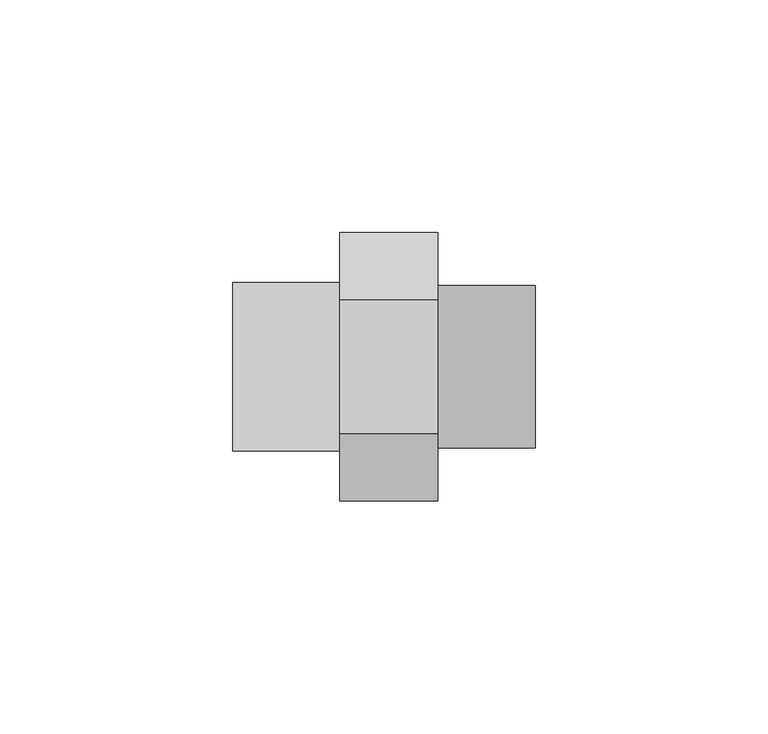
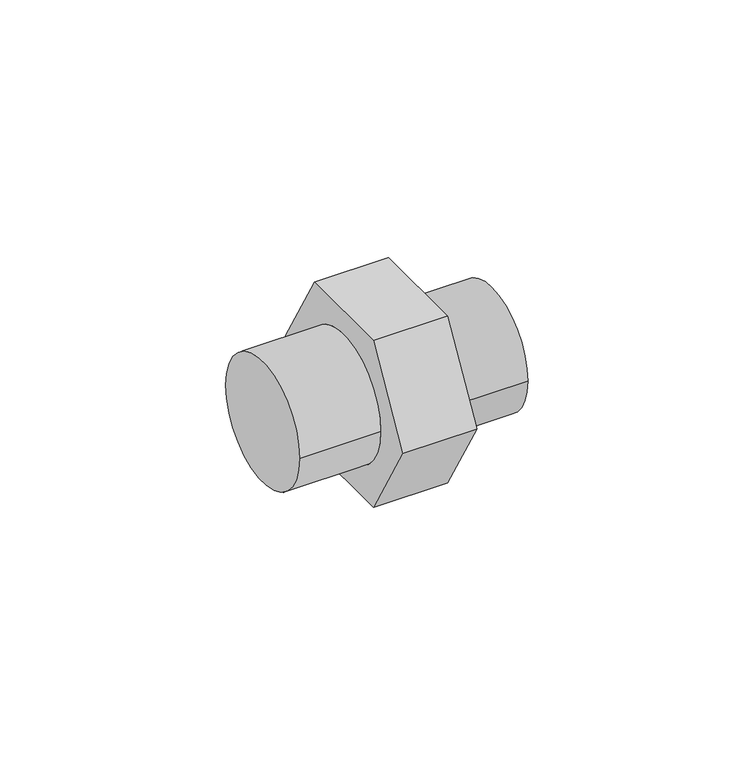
"""IFC4 building model written with IfcOpenShell, lengths in millimetres: pipe fitting geometry, 01011197 : Machones doble rosca reducidas."""

import ifcopenshell
import ifcopenshell.guid

model = None  # the IFC model being written
_history = None  # IfcOwnerHistory: only IFC2X3 demands one
_inside = {}  # id of a spatial element -> (the spatial element, [elements in it])
_under = {}  # id of a project, library or spatial element -> (it, [spatial elements below it])
_declared = {}  # id of a project -> (the project, [libraries it declares])
_typed = {}  # id of a type object -> (the type object, [elements of that type])
_made_of = {}  # id of a material, layer set ... -> (it, [elements and type objects made of it])


def new_model(schema):
    """Start an empty IFC model of exactly this schema.

    Asked for "IFC4X3", IfcOpenShell would pick the latest addendum, in which some entities
    have other attributes; the version numbers below select the first issue.
    IFC2X3 requires an IfcOwnerHistory on every rooted entity: one is made here for all.
    """
    global model, _history
    if schema == "IFC4X3":
        model = ifcopenshell.file(schema_version=(4, 3, 0, 0))
    else:
        model = ifcopenshell.file(schema=schema)
    _inside.clear()
    _under.clear()
    _declared.clear()
    _typed.clear()
    _made_of.clear()
    _history = None
    if model.schema == "IFC2X3":
        org = make("IfcOrganization", Name="unknown")
        user = make(
            "IfcPersonAndOrganization",
            ThePerson=make("IfcPerson", FamilyName="unknown"),
            TheOrganization=org,
        )
        app = make(
            "IfcApplication",
            ApplicationDeveloper=org,
            Version="unknown",
            ApplicationFullName="unknown",
            ApplicationIdentifier="unknown",
        )
        _history = make(
            "IfcOwnerHistory",
            OwningUser=user,
            OwningApplication=app,
            ChangeAction="ADDED",
            CreationDate=0,
        )
    return model


def make(cls, **values):
    """One entity of the class cls with the attributes given. An attribute that is None is left unset."""
    return model.create_entity(
        cls, **{name: value for name, value in values.items() if value is not None}
    )


def rooted(cls, **values):
    """An entity with a GlobalId (a new one), such as an element, a storey or a relation."""
    return make(cls, GlobalId=ifcopenshell.guid.new(), OwnerHistory=_history, **values)


def si_unit(unit_type, name, prefix=None):
    """IfcSIUnit, for example si_unit("LENGTHUNIT", "METRE", prefix="MILLI")."""
    return make("IfcSIUnit", UnitType=unit_type, Prefix=prefix, Name=name)


def assignment(units):
    """IfcUnitAssignment: the units of a project."""
    return None if units is None else make("IfcUnitAssignment", Units=units)


def point(xyz):
    """IfcCartesianPoint."""
    return None if xyz is None else make("IfcCartesianPoint", Coordinates=xyz)


def direction(xyz):
    """IfcDirection."""
    return None if xyz is None else make("IfcDirection", DirectionRatios=xyz)


def frame(location, z_axis=None, x_axis=None):
    """IfcAxis2Placement3D, a coordinate frame: its origin and axes. An axis left out is left unset."""
    return make(
        "IfcAxis2Placement3D",
        Location=point(location),
        Axis=direction(z_axis),
        RefDirection=direction(x_axis),
    )


def origin():
    """The frame at (0, 0, 0) with its axes left unset."""
    return frame((0.0, 0.0, 0.0))


def place(relative_to, where):
    """IfcLocalPlacement: puts the frame where relative to a parent placement (None: the world)."""
    return make(
        "IfcLocalPlacement", PlacementRelTo=relative_to, RelativePlacement=where
    )


def context(
    kind, dimensions, precision=None, world=None, true_north=None, identifier=None
):
    """IfcGeometricRepresentationContext, for example the 3D "Model" context."""
    return make(
        "IfcGeometricRepresentationContext",
        ContextIdentifier=identifier,
        ContextType=kind,
        CoordinateSpaceDimension=dimensions,
        Precision=precision,
        WorldCoordinateSystem=world,
        TrueNorth=true_north,
    )


def project(units=None, contexts=None):
    """IfcProject with its units and contexts."""
    return rooted(
        "IfcProject",
        Name="project",
        RepresentationContexts=contexts,
        UnitsInContext=assignment(units),
    )


def spatial(cls, under=None, at=None, **own):
    """A site, building, storey or space (cls), placed at a placement, below another one or the project."""
    s = rooted(cls, ObjectPlacement=at, **own)
    if under is not None:
        _under.setdefault(under.id(), (under, []))[1].append(s)
    return s


def circle_curve(where, radius):
    """IfcCircle in the frame where."""
    return make("IfcCircle", Position=where, Radius=radius)


def shape(context_of_items, identifier, shape_type, items):
    """IfcShapeRepresentation: the items that make up one representation, for example the "Body"."""
    return make(
        "IfcShapeRepresentation",
        ContextOfItems=context_of_items,
        RepresentationIdentifier=identifier,
        RepresentationType=shape_type,
        Items=items,
    )


def source(mapping_origin, context_of_items, identifier, shape_type, items):
    """IfcRepresentationMap: a shape defined once, which mapped items show again and again."""
    return make(
        "IfcRepresentationMap",
        MappingOrigin=mapping_origin,
        MappedRepresentation=shape(context_of_items, identifier, shape_type, items),
    )


def transform(
    local_origin,
    x_axis=None,
    y_axis=None,
    z_axis=None,
    scale=None,
    scale2=None,
    scale3=None,
    uniform=True,
):
    """IfcCartesianTransformationOperator3D, or its non-uniform kind. x_axis, y_axis, z_axis: its Axis1, 2, 3."""
    if uniform:
        return make(
            "IfcCartesianTransformationOperator3D",
            Axis1=direction(x_axis),
            Axis2=direction(y_axis),
            LocalOrigin=point(local_origin),
            Scale=scale,
            Axis3=direction(z_axis),
        )
    return make(
        "IfcCartesianTransformationOperator3DnonUniform",
        Axis1=direction(x_axis),
        Axis2=direction(y_axis),
        LocalOrigin=point(local_origin),
        Scale=scale,
        Axis3=direction(z_axis),
        Scale2=scale2,
        Scale3=scale3,
    )


def mapped(mapping_source, mapping_target):
    """IfcMappedItem: shows the shape of a source again, moved by a transform."""
    return make(
        "IfcMappedItem", MappingSource=mapping_source, MappingTarget=mapping_target
    )


def made_of(thing, what):
    """Note that an element or type object is made of a material, layer set ...; save() writes the relation."""
    if what is not None:
        _made_of.setdefault(what.id(), (what, []))[1].append(thing)
    return thing


def element(
    cls,
    number,
    at=None,
    inside=None,
    cuts=None,
    type_object=None,
    material=None,
    context=None,
    identifier="Body",
    shape_type=None,
    held_by="IfcProductDefinitionShape",
    body=None,
    shapes=None,
    **own,
):
    """One element of the class cls, such as IfcWall. Its Tag is "e" and its number.

    at: its placement. inside: the storey or other place that contains it. cuts: it is an
    opening in that element (IfcRelVoidsElement). A single representation is given by context,
    identifier, shape_type and body (its items); several are given by shapes. held_by: the class
    of the entity that holds the representations. save() writes the other relations.
    """
    e = rooted(cls, Tag="e%d" % number, ObjectPlacement=at, **own)
    if body is not None:
        shapes = [shape(context, identifier, shape_type, body)]
    if shapes is not None:
        e.Representation = make(held_by, Representations=shapes)
    if inside is not None:
        _inside.setdefault(inside.id(), (inside, []))[1].append(e)
    if cuts is not None:
        rooted(
            "IfcRelVoidsElement", RelatingBuildingElement=cuts, RelatedOpeningElement=e
        )
    if type_object is not None:
        _typed.setdefault(type_object.id(), (type_object, []))[1].append(e)
    return made_of(e, material)


def aggregate(whole, parts):
    """IfcRelAggregates: a whole, such as a stair, and the parts it consists of."""
    return rooted("IfcRelAggregates", RelatingObject=whole, RelatedObjects=parts)


def save(model, path):
    """Write the relations noted so far, then the file.

    IfcRelAggregates (storeys below a building ...), IfcRelContainedInSpatialStructure (elements
    in a storey), IfcRelDefinesByType, IfcRelAssociatesMaterial and IfcRelDeclares: one each for
    every whole, place, type object, material and project.
    """
    for whole, parts in _under.values():
        aggregate(whole, parts)
    for where, things in _inside.values():
        rooted(
            "IfcRelContainedInSpatialStructure",
            RelatedElements=things,
            RelatingStructure=where,
        )
    for kind, things in _typed.values():
        rooted("IfcRelDefinesByType", RelatedObjects=things, RelatingType=kind)
    for what, things in _made_of.values():
        rooted("IfcRelAssociatesMaterial", RelatedObjects=things, RelatingMaterial=what)
    for by, libraries in _declared.values():
        rooted("IfcRelDeclares", RelatingContext=by, RelatedDefinitions=libraries)
    model.write(path)


def plane_surface(at):
    """IfcPlane: the flat surface through the origin of the frame at, square to its z axis."""
    return make("IfcPlane", Position=at)


def cylinder_surface(at, radius):
    """IfcCylindricalSurface: all points at the distance radius from the z axis of the frame at."""
    return make("IfcCylindricalSurface", Position=at, Radius=radius)


def advanced_brep(points, edges, surfaces, faces):
    """IfcAdvancedBrep: a solid bounded by faces that lie on surfaces and meet in shared edges.

    An edge is (start, end): straight between two places in points (the first is 0);
    or (start, end, curve); or (start, end, curve, False) where it runs against its curve.
    A face is (place in surfaces, loops), or (place, loops, False) where it looks against
    its surface's normal. A loop lists edges by number (the first is 1), with a minus sign
    where the edge is run from its end to its start. The first loop is the outer one.
    """
    corners = [point(p) for p in points]
    vertices = [make("IfcVertexPoint", VertexGeometry=c) for c in corners]
    made = []
    for start, end, *more in edges:
        made.append(
            make(
                "IfcEdgeCurve",
                EdgeStart=vertices[start],
                EdgeEnd=vertices[end],
                EdgeGeometry=more[0] if more else make("IfcPolyline", Points=[corners[start], corners[end]]),
                SameSense=more[1] if len(more) > 1 else True,
            )
        )
    hull = []
    for where, loops, *sense in faces:
        bounds = []
        for j, loop in enumerate(loops):
            ring = [make("IfcOrientedEdge", EdgeElement=made[abs(k) - 1], Orientation=k > 0) for k in loop]
            bounds.append(
                make(
                    "IfcFaceOuterBound" if j == 0 else "IfcFaceBound",
                    Bound=make("IfcEdgeLoop", EdgeList=ring),
                    Orientation=True,
                )
            )
        hull.append(make("IfcAdvancedFace", Bounds=bounds, FaceSurface=surfaces[where], SameSense=sense[0] if sense else True))
    return make("IfcAdvancedBrep", Outer=make("IfcClosedShell", CfsFaces=hull))


def pipe_fitting_6bcb3bfd(model_context):
    return source(origin(), model_context, "Body", "AdvancedBrep", [
        advanced_brep(
        [(44.0, -14.4337567, 25.0), (44.0, -28.8675135, 0.0), (44.0, -14.4337567, -25.0), (44.0, 14.4337567, -25.0), (44.0, 28.8675135, 0.0), (44.0, 14.4337567, 25.0), (44.0, -17.4625, 0.0), (44.0, 17.4625, 0.0), (23.0, -14.4337567, 25.0), (23.0, 14.4337567, 25.0), (23.0, 28.8675135, 0.0), (23.0, 14.4337567, -25.0), (23.0, -14.4337567, -25.0), (23.0, -28.8675135, 0.0), (23.0, 18.0975, 0.0), (23.0, -18.0975, 0.0), (65.0, -17.4625, 0.0), (65.0, 17.4625, 0.0), (0.0, 18.0975, 0.0), (0.0, -18.0975, 0.0)],
        [
            (0, 1),
            (1, 2),
            (2, 3),
            (3, 4),
            (4, 5),
            (5, 0),
            (6, 7, circle_curve(frame((44.0, 0.0, 0.0), z_axis=(-1.0, 0.0, 0.0), x_axis=(0.0, 1.0, 0.0)), 17.4625)),
            (7, 6, circle_curve(frame((44.0, 0.0, 0.0), z_axis=(-1.0, 0.0, 0.0), x_axis=(0.0, 1.0, 0.0)), 17.4625)),
            (8, 9),
            (9, 10),
            (10, 11),
            (11, 12),
            (12, 13),
            (13, 8),
            (14, 15, circle_curve(frame((23.0, 0.0, 0.0), z_axis=(1.0, 0.0, 0.0), x_axis=(0.0, -1.0, 0.0)), 18.0975)),
            (15, 14, circle_curve(frame((23.0, 0.0, 0.0), z_axis=(1.0, 0.0, 0.0), x_axis=(0.0, -1.0, 0.0)), 18.0975)),
            (0, 8),
            (13, 1),
            (12, 2),
            (11, 3),
            (10, 4),
            (9, 5),
            (16, 17, circle_curve(frame((65.0, 0.0, 0.0), z_axis=(1.0, 0.0, 0.0), x_axis=(0.0, 1.0, 0.0)), 17.4625)),
            (17, 16, circle_curve(frame((65.0, 0.0, 0.0), z_axis=(1.0, 0.0, 0.0), x_axis=(0.0, 1.0, 0.0)), 17.4625)),
            (17, 7),
            (6, 16),
            (18, 19, circle_curve(frame((0.0, 0.0, 0.0), z_axis=(-1.0, 0.0, 0.0), x_axis=(0.0, -1.0, 0.0)), 18.0975)),
            (19, 18, circle_curve(frame((0.0, 0.0, 0.0), z_axis=(-1.0, 0.0, 0.0), x_axis=(0.0, -1.0, 0.0)), 18.0975)),
            (19, 15),
            (14, 18),
        ],
        [
            plane_surface(frame((44.0, -14.4337567, 25.0), z_axis=(1.0, 0.0, 0.0), x_axis=(0.0, -0.5000000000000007, -0.8660254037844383))),
            plane_surface(frame((23.0, -14.4337567, 25.0), z_axis=(-1.0, 0.0, 0.0), x_axis=(0.0, 0.5000000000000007, 0.8660254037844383))),
            plane_surface(frame((44.0, -14.4337567, 25.0), z_axis=(0.0, -0.8660254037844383, 0.5000000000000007), x_axis=(-1.0, 0.0, 0.0))),
            plane_surface(frame((44.0, -28.8675135, 0.0), z_axis=(0.0, -0.866025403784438, -0.500000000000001), x_axis=(-1.0, 0.0, 0.0))),
            plane_surface(frame((44.0, -14.4337567, -25.0), z_axis=(0.0, 0.0, -1.0), x_axis=(-1.0, 0.0, 0.0))),
            plane_surface(frame((44.0, 14.4337567, -25.0), z_axis=(0.0, 0.8660254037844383, -0.5000000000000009), x_axis=(-1.0, 0.0, 0.0))),
            plane_surface(frame((44.0, 28.8675135, 0.0), z_axis=(0.0, 0.866025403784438, 0.500000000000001), x_axis=(-1.0, 0.0, 0.0))),
            plane_surface(frame((44.0, 14.4337567, 25.0), z_axis=(0.0, 0.0, 1.0), x_axis=(-1.0, 0.0, 0.0))),
            plane_surface(frame((65.0, 0.0, 0.0), z_axis=(1.0, 0.0, 0.0), x_axis=(0.0, 0.0, 1.0))),
            cylinder_surface(frame((44.0, 0.0, 0.0), z_axis=(-1.0, 0.0, 0.0), x_axis=(0.0, 1.0, 0.0)), 17.4625),
            plane_surface(frame((0.0, 0.0, 0.0), z_axis=(-1.0, 0.0, 0.0), x_axis=(0.0, 0.0, 1.0))),
            cylinder_surface(frame((23.0, 0.0, 0.0), z_axis=(1.0, 0.0, 0.0), x_axis=(0.0, -1.0, 0.0)), 18.0975),
        ],
        [
            (0, [[1, 2, 3, 4, 5, 6], [7, 8]]),
            (1, [[9, 10, 11, 12, 13, 14], [15, 16]]),
            (2, [[-1, 17, -14, 18]]),
            (3, [[-2, -18, -13, 19]]),
            (4, [[-3, -19, -12, 20]]),
            (5, [[-4, -20, -11, 21]]),
            (6, [[-5, -21, -10, 22]]),
            (7, [[-6, -22, -9, -17]]),
            (8, [[23, 24]]),
            (9, [[-24, 25, -7, 26]]),
            (9, [[-23, -26, -8, -25]]),
            (10, [[27, 28]]),
            (11, [[-28, 29, -15, 30]]),
            (11, [[-27, -30, -16, -29]]),
        ],
    ),
    ])


if __name__ == "__main__":
    model = new_model("IFC4")
    model_context = context("Model", 3, world=origin())
    ifc_project = project(units=[si_unit("LENGTHUNIT", "METRE", prefix="MILLI")], contexts=[model_context])
    site = spatial("IfcSite", under=ifc_project)
    building = spatial("IfcBuilding", under=site)
    placement = place(None, origin())
    pipe_fitting_shape = pipe_fitting_6bcb3bfd(model_context)
    element("IfcPipeFitting", 1, ObjectType="01011197 : Machones doble rosca reducidas", at=placement, inside=building, context=model_context, shape_type="MappedRepresentation", body=[
        mapped(pipe_fitting_shape, transform((0.0, 0.0, 0.0), x_axis=(1.0, 0.0, 0.0), y_axis=(0.0, 1.0, 0.0), z_axis=(0.0, 0.0, 1.0))),
    ])
    save(model, "model.ifc")
